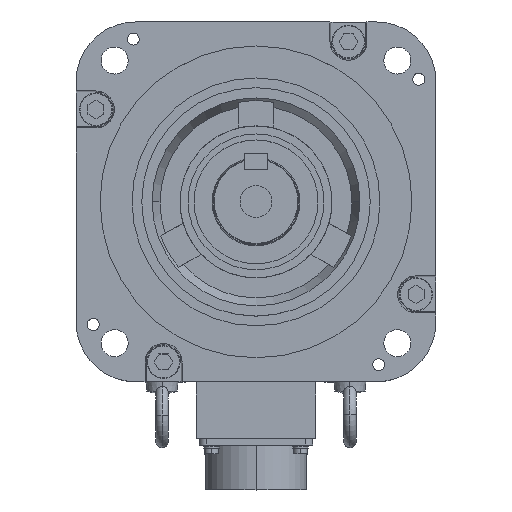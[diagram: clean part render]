
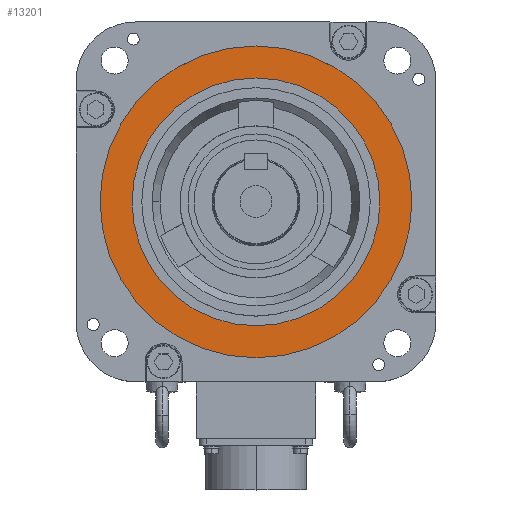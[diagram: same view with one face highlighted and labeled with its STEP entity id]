
A CAD part, top view. The second image highlights one B-rep face of the part: STEP entity #13201.
In plain terms, the highlighted planar face has unit normal (0, 0, 1).
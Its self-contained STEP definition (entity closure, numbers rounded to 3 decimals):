
#866 = CARTESIAN_POINT ( 'NONE',  ( -62., 0., -0.5 ) ) ;
#912 = CARTESIAN_POINT ( 'NONE',  ( 62., 0., -0.5 ) ) ;
#923 = CARTESIAN_POINT ( 'NONE',  ( 78., 0., -0.5 ) ) ;
#984 = CARTESIAN_POINT ( 'NONE',  ( -78., 0., -0.5 ) ) ;
#1015 = DIRECTION ( 'NONE',  ( 1., 0., 0. ) ) ;
#1016 = DIRECTION ( 'NONE',  ( 0., 0., 1. ) ) ;
#1017 = CARTESIAN_POINT ( 'NONE',  ( 0., 0., -0.5 ) ) ;
#1018 = AXIS2_PLACEMENT_3D ( 'NONE', #1017, #1016, #1015 ) ;
#1019 = CIRCLE ( 'NONE', #1018, 78. ) ;
#1038 = DIRECTION ( 'NONE',  ( 1., 0., 0. ) ) ;
#1039 = DIRECTION ( 'NONE',  ( 0., 0., 1. ) ) ;
#1040 = CARTESIAN_POINT ( 'NONE',  ( 0., 0., -0.5 ) ) ;
#1041 = AXIS2_PLACEMENT_3D ( 'NONE', #1040, #1039, #1038 ) ;
#1042 = CIRCLE ( 'NONE', #1041, 62. ) ;
#13201 = ADVANCED_FACE ( 'NONE', ( #32227, #32226 ), #32225, .T. ) ;
#13202 = EDGE_LOOP ( 'NONE', ( #13203, #13205 ) ) ;
#13203 = ORIENTED_EDGE ( 'NONE', *, *, #13204, .T. ) ;
#13204 = EDGE_CURVE ( 'NONE', #14759, #14764, #32219, .T. ) ;
#13205 = ORIENTED_EDGE ( 'NONE', *, *, #14781, .T. ) ;
#13206 = EDGE_LOOP ( 'NONE', ( #13207, #13209 ) ) ;
#13207 = ORIENTED_EDGE ( 'NONE', *, *, #13208, .F. ) ;
#13208 = EDGE_CURVE ( 'NONE', #14725, #14735, #32215, .T. ) ;
#13209 = ORIENTED_EDGE ( 'NONE', *, *, #14797, .F. ) ;
#14725 = VERTEX_POINT ( 'NONE', #866 ) ;
#14735 = VERTEX_POINT ( 'NONE', #912 ) ;
#14759 = VERTEX_POINT ( 'NONE', #923 ) ;
#14764 = VERTEX_POINT ( 'NONE', #984 ) ;
#14781 = EDGE_CURVE ( 'NONE', #14764, #14759, #1019, .T. ) ;
#14797 = EDGE_CURVE ( 'NONE', #14735, #14725, #1042, .T. ) ;
#32213 = CARTESIAN_POINT ( 'NONE',  ( 0., 0., -0.5 ) ) ;
#32214 = AXIS2_PLACEMENT_3D ( 'NONE', #32213, #32277, #32276 ) ;
#32215 = CIRCLE ( 'NONE', #32214, 62. ) ;
#32216 = DIRECTION ( 'NONE',  ( 1., 0., 0. ) ) ;
#32217 = DIRECTION ( 'NONE',  ( 0., 0., 1. ) ) ;
#32218 = AXIS2_PLACEMENT_3D ( 'NONE', #32224, #32217, #32216 ) ;
#32219 = CIRCLE ( 'NONE', #32218, 78. ) ;
#32220 = DIRECTION ( 'NONE',  ( 1., 0., 0. ) ) ;
#32221 = DIRECTION ( 'NONE',  ( 0., 0., 1. ) ) ;
#32222 = CARTESIAN_POINT ( 'NONE',  ( 0., 0., -0.5 ) ) ;
#32223 = AXIS2_PLACEMENT_3D ( 'NONE', #32222, #32221, #32220 ) ;
#32224 = CARTESIAN_POINT ( 'NONE',  ( 0., 0., -0.5 ) ) ;
#32225 = PLANE ( 'NONE',  #32223 ) ;
#32226 = FACE_BOUND ( 'NONE', #13206, .T. ) ;
#32227 = FACE_OUTER_BOUND ( 'NONE', #13202, .T. ) ;
#32276 = DIRECTION ( 'NONE',  ( 1., 0., 0. ) ) ;
#32277 = DIRECTION ( 'NONE',  ( 0., 0., 1. ) ) ;
